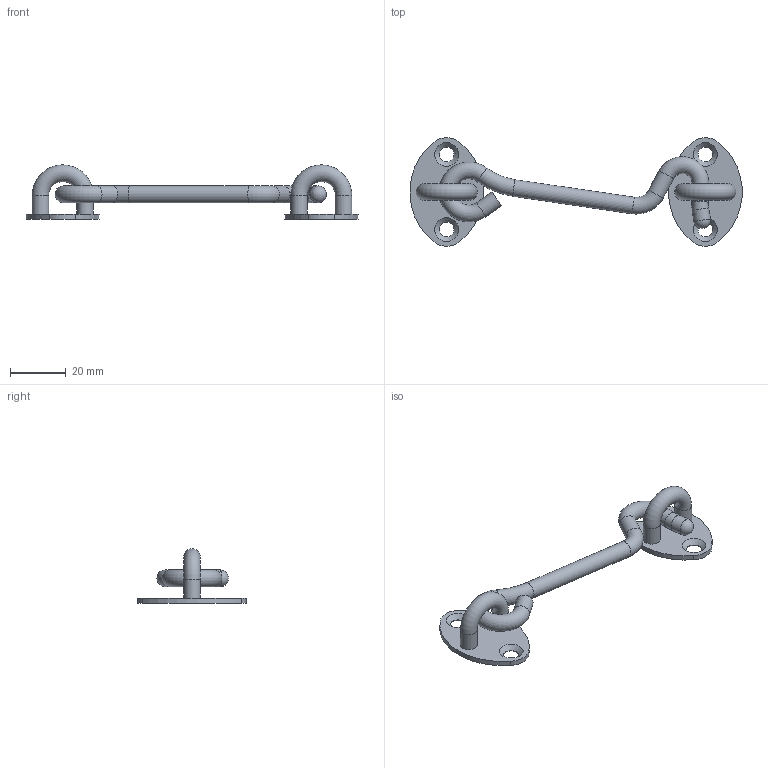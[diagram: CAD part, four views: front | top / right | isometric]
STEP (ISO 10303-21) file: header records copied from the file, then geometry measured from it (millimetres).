
FILE_DESCRIPTION(/* description */ (''),/* implementation_level */ '2;1');
FILE_NAME(/* name */ '\\NAS\db20\GS5-8\DR_GS5-8.stp',/* time_stamp */ '2017-12-05T11:05:15+09:00',/* author */ ('user'),/* organization */ (''),/* preprocessor_version */ 'ST-DEVELOPER v15.6',/* originating_system */ 'Autodesk Inventor 2015',/* authorisation */ '');
FILE_SCHEMA (('AUTOMOTIVE_DESIGN { 1 0 10303 214 3 1 1 }'));
Length unit declared in the file: millimetre
Products named in the file (3): DR_GS5-8-BR; DR_GS5-8-C; DR_GS5-8
Bounding box: 119.32 x 39 x 19.5 mm (x, y, z)
Volume: 8881.5 mm3; surface area: 7545.6 mm2
Topology: 3 solids, 3 shells, 38 faces, 86 edges, 53 vertices
Faces by surface type: cylinder 21, torus 7, plane 5, cone 4, sphere 1
Full cylindrical faces by diameter (mm): 5.3 x4, 6 x9
Entity records: 663 total; most frequent: DIRECTION 124, CARTESIAN_POINT 93, ORIENTED_EDGE 66, AXIS2_PLACEMENT_3D 60, EDGE_LOOP 48, EDGE_CURVE 33, CIRCLE 29, VERTEX_POINT 29
